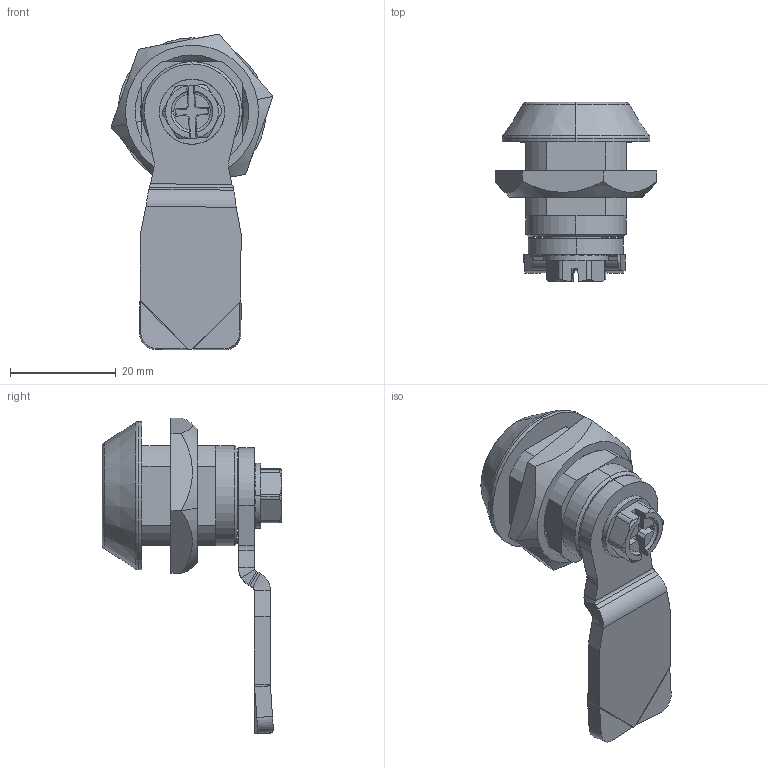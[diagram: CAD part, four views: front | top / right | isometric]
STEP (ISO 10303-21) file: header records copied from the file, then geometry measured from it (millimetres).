
FILE_DESCRIPTION (( 'STEP AP214' ), '1' );
FILE_NAME ('M22W-21.STEP', '2011-07-12T13:34:39', ( '£ukasz Cieæka' ), ( '' ), 'SwSTEP 2.0', 'SolidWorks 2010', '' );
FILE_SCHEMA (( 'AUTOMOTIVE_DESIGN' ));
Length unit declared in the file: millimetre
Products named in the file (6): J-100.24.45; Wk³adka1333; M22-00.00.05; 2.K001.003_B; M6 x 8z ³bem podk³adkowym_Default; M22W-21
Assembly tree (5 placements, depth 2):
  M22W-21
    Wk³adka1333
    J-100.24.45
    M22-00.00.05
    2.K001.003_B
    M6 x 8z ³bem podk³adkowym_Default
Bounding box: 30.64 x 33.96 x 59.78 mm (x, y, z)
Volume: 13095.6 mm3; surface area: 9721.1 mm2
Topology: 5 solids, 5 shells, 299 faces, 760 edges, 480 vertices
Faces by surface type: plane 186, cylinder 54, cone 39, torus 11, bspline 8, sphere 1
Entity records: 9467 total; most frequent: CARTESIAN_POINT 2276, ORIENTED_EDGE 1516, DIRECTION 1356, EDGE_CURVE 758, AXIS2_PLACEMENT_3D 487, VERTEX_POINT 480, LINE 382, VECTOR 382
